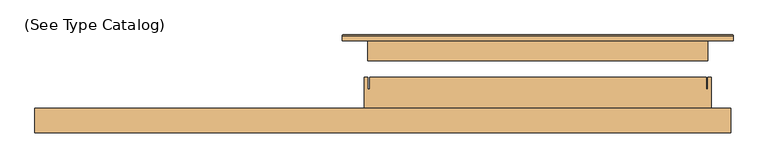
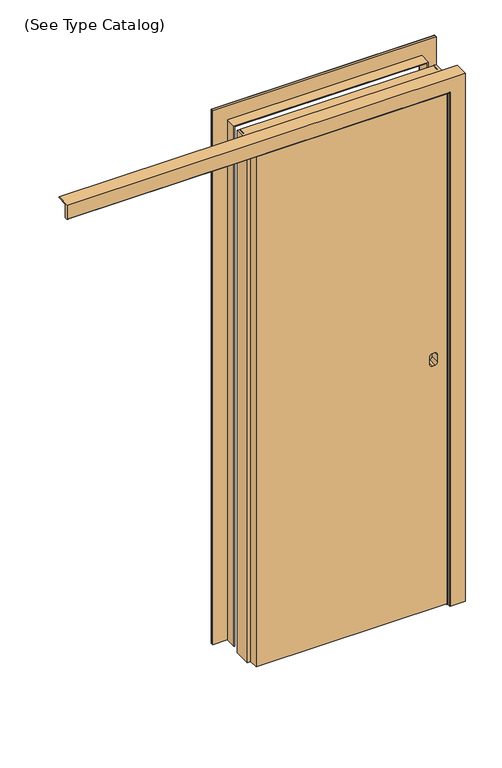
"""IFC4 building model written with IfcOpenShell, lengths in millimetres: door geometry, M_Porta-De_Correr-Pormade-Porta_Lisa : (See Type Catalog)."""

import ifcopenshell
import ifcopenshell.guid

model = None  # the IFC model being written
_history = None  # IfcOwnerHistory: only IFC2X3 demands one
_inside = {}  # id of a spatial element -> (the spatial element, [elements in it])
_under = {}  # id of a project, library or spatial element -> (it, [spatial elements below it])
_declared = {}  # id of a project -> (the project, [libraries it declares])
_typed = {}  # id of a type object -> (the type object, [elements of that type])
_made_of = {}  # id of a material, layer set ... -> (it, [elements and type objects made of it])


def new_model(schema):
    """Start an empty IFC model of exactly this schema.

    Asked for "IFC4X3", IfcOpenShell would pick the latest addendum, in which some entities
    have other attributes; the version numbers below select the first issue.
    IFC2X3 requires an IfcOwnerHistory on every rooted entity: one is made here for all.
    """
    global model, _history
    if schema == "IFC4X3":
        model = ifcopenshell.file(schema_version=(4, 3, 0, 0))
    else:
        model = ifcopenshell.file(schema=schema)
    _inside.clear()
    _under.clear()
    _declared.clear()
    _typed.clear()
    _made_of.clear()
    _history = None
    if model.schema == "IFC2X3":
        org = make("IfcOrganization", Name="unknown")
        user = make(
            "IfcPersonAndOrganization",
            ThePerson=make("IfcPerson", FamilyName="unknown"),
            TheOrganization=org,
        )
        app = make(
            "IfcApplication",
            ApplicationDeveloper=org,
            Version="unknown",
            ApplicationFullName="unknown",
            ApplicationIdentifier="unknown",
        )
        _history = make(
            "IfcOwnerHistory",
            OwningUser=user,
            OwningApplication=app,
            ChangeAction="ADDED",
            CreationDate=0,
        )
    return model


def make(cls, **values):
    """One entity of the class cls with the attributes given. An attribute that is None is left unset."""
    return model.create_entity(
        cls, **{name: value for name, value in values.items() if value is not None}
    )


def rooted(cls, **values):
    """An entity with a GlobalId (a new one), such as an element, a storey or a relation."""
    return make(cls, GlobalId=ifcopenshell.guid.new(), OwnerHistory=_history, **values)


def si_unit(unit_type, name, prefix=None):
    """IfcSIUnit, for example si_unit("LENGTHUNIT", "METRE", prefix="MILLI")."""
    return make("IfcSIUnit", UnitType=unit_type, Prefix=prefix, Name=name)


def assignment(units):
    """IfcUnitAssignment: the units of a project."""
    return None if units is None else make("IfcUnitAssignment", Units=units)


def point(xyz):
    """IfcCartesianPoint."""
    return None if xyz is None else make("IfcCartesianPoint", Coordinates=xyz)


def direction(xyz):
    """IfcDirection."""
    return None if xyz is None else make("IfcDirection", DirectionRatios=xyz)


def frame(location, z_axis=None, x_axis=None):
    """IfcAxis2Placement3D, a coordinate frame: its origin and axes. An axis left out is left unset."""
    return make(
        "IfcAxis2Placement3D",
        Location=point(location),
        Axis=direction(z_axis),
        RefDirection=direction(x_axis),
    )


def frame_2d(location, x_axis=None):
    """IfcAxis2Placement2D, a coordinate frame in the plane: its origin and x axis."""
    return make(
        "IfcAxis2Placement2D", Location=point(location), RefDirection=direction(x_axis)
    )


def origin():
    """The frame at (0, 0, 0) with its axes left unset."""
    return frame((0.0, 0.0, 0.0))


def place(relative_to, where):
    """IfcLocalPlacement: puts the frame where relative to a parent placement (None: the world)."""
    return make(
        "IfcLocalPlacement", PlacementRelTo=relative_to, RelativePlacement=where
    )


def context(
    kind, dimensions, precision=None, world=None, true_north=None, identifier=None
):
    """IfcGeometricRepresentationContext, for example the 3D "Model" context."""
    return make(
        "IfcGeometricRepresentationContext",
        ContextIdentifier=identifier,
        ContextType=kind,
        CoordinateSpaceDimension=dimensions,
        Precision=precision,
        WorldCoordinateSystem=world,
        TrueNorth=true_north,
    )


def project(units=None, contexts=None):
    """IfcProject with its units and contexts."""
    return rooted(
        "IfcProject",
        Name="project",
        RepresentationContexts=contexts,
        UnitsInContext=assignment(units),
    )


def spatial(cls, under=None, at=None, **own):
    """A site, building, storey or space (cls), placed at a placement, below another one or the project."""
    s = rooted(cls, ObjectPlacement=at, **own)
    if under is not None:
        _under.setdefault(under.id(), (under, []))[1].append(s)
    return s


def polyline(points):
    """IfcPolyline through the points."""
    return make("IfcPolyline", Points=[point(p) for p in points])


def circle_curve(where, radius):
    """IfcCircle in the frame where."""
    return make("IfcCircle", Position=where, Radius=radius)


def ellipse_curve(where, semi_axis1, semi_axis2):
    """IfcEllipse in the frame where."""
    return make(
        "IfcEllipse", Position=where, SemiAxis1=semi_axis1, SemiAxis2=semi_axis2
    )


def trimmed(basis, trim1, trim2, sense, master):
    """IfcTrimmedCurve: the piece of a basis curve between two trims."""
    return make(
        "IfcTrimmedCurve",
        BasisCurve=basis,
        Trim1=trim1,
        Trim2=trim2,
        SenseAgreement=sense,
        MasterRepresentation=master,
    )


def segment(curve, same_sense, transition):
    """IfcCompositeCurveSegment."""
    return make(
        "IfcCompositeCurveSegment",
        Transition=transition,
        SameSense=same_sense,
        ParentCurve=curve,
    )


def composite_curve(segments, self_intersect=None):
    """IfcCompositeCurve: segments joined end to end."""
    return make("IfcCompositeCurve", Segments=segments, SelfIntersect=self_intersect)


def outline(outer, holes=None, kind="AREA"):
    """IfcArbitraryClosedProfileDef: a profile drawn as a closed curve; with holes, ...WithVoids."""
    if holes is None:
        return make("IfcArbitraryClosedProfileDef", ProfileType=kind, OuterCurve=outer)
    return make(
        "IfcArbitraryProfileDefWithVoids",
        ProfileType=kind,
        OuterCurve=outer,
        InnerCurves=holes,
    )


def extrude(swept, where, along, depth):
    """IfcExtrudedAreaSolid: the profile swept, set in the frame where, extruded along a direction by depth."""
    return make(
        "IfcExtrudedAreaSolid",
        SweptArea=swept,
        Position=where,
        ExtrudedDirection=direction(along),
        Depth=depth,
    )


def faces_of(points, faces, orient=None, outer=None):
    """IfcFace entities. A face is a list of loops; a loop is a list of indices into points, from 0.

    orient and outer hold one flag for each loop. By default every Orientation is true, the
    first loop of a face is its IfcFaceOuterBound and the others are IfcFaceBound.
    """
    made = []
    for i, loops in enumerate(faces):
        bounds = []
        for j, loop in enumerate(loops):
            is_outer = j == 0 if outer is None else outer[i][j]
            bounds.append(
                make(
                    "IfcFaceOuterBound" if is_outer else "IfcFaceBound",
                    Bound=make("IfcPolyLoop", Polygon=[points[k] for k in loop]),
                    Orientation=True if orient is None else orient[i][j],
                )
            )
        made.append(make("IfcFace", Bounds=bounds))
    return made


def faceted_brep(points, faces, orient=None, outer=None, voids=None):
    """IfcFacetedBrep: a solid bounded by flat faces; with voids (closed shells), ...WithVoids."""
    shared = [point(p) for p in points]
    hull = make("IfcClosedShell", CfsFaces=faces_of(shared, faces, orient, outer))
    if voids is None:
        return make("IfcFacetedBrep", Outer=hull)
    return make(
        "IfcFacetedBrepWithVoids",
        Outer=hull,
        Voids=[
            make(cls, CfsFaces=faces_of(shared, fs, o, b)) for cls, fs, o, b in voids
        ],
    )


def shape(context_of_items, identifier, shape_type, items):
    """IfcShapeRepresentation: the items that make up one representation, for example the "Body"."""
    return make(
        "IfcShapeRepresentation",
        ContextOfItems=context_of_items,
        RepresentationIdentifier=identifier,
        RepresentationType=shape_type,
        Items=items,
    )


def source(mapping_origin, context_of_items, identifier, shape_type, items):
    """IfcRepresentationMap: a shape defined once, which mapped items show again and again."""
    return make(
        "IfcRepresentationMap",
        MappingOrigin=mapping_origin,
        MappedRepresentation=shape(context_of_items, identifier, shape_type, items),
    )


def transform(
    local_origin,
    x_axis=None,
    y_axis=None,
    z_axis=None,
    scale=None,
    scale2=None,
    scale3=None,
    uniform=True,
):
    """IfcCartesianTransformationOperator3D, or its non-uniform kind. x_axis, y_axis, z_axis: its Axis1, 2, 3."""
    if uniform:
        return make(
            "IfcCartesianTransformationOperator3D",
            Axis1=direction(x_axis),
            Axis2=direction(y_axis),
            LocalOrigin=point(local_origin),
            Scale=scale,
            Axis3=direction(z_axis),
        )
    return make(
        "IfcCartesianTransformationOperator3DnonUniform",
        Axis1=direction(x_axis),
        Axis2=direction(y_axis),
        LocalOrigin=point(local_origin),
        Scale=scale,
        Axis3=direction(z_axis),
        Scale2=scale2,
        Scale3=scale3,
    )


def mapped(mapping_source, mapping_target):
    """IfcMappedItem: shows the shape of a source again, moved by a transform."""
    return make(
        "IfcMappedItem", MappingSource=mapping_source, MappingTarget=mapping_target
    )


def made_of(thing, what):
    """Note that an element or type object is made of a material, layer set ...; save() writes the relation."""
    if what is not None:
        _made_of.setdefault(what.id(), (what, []))[1].append(thing)
    return thing


def element(
    cls,
    number,
    at=None,
    inside=None,
    cuts=None,
    type_object=None,
    material=None,
    context=None,
    identifier="Body",
    shape_type=None,
    held_by="IfcProductDefinitionShape",
    body=None,
    shapes=None,
    **own,
):
    """One element of the class cls, such as IfcWall. Its Tag is "e" and its number.

    at: its placement. inside: the storey or other place that contains it. cuts: it is an
    opening in that element (IfcRelVoidsElement). A single representation is given by context,
    identifier, shape_type and body (its items); several are given by shapes. held_by: the class
    of the entity that holds the representations. save() writes the other relations.
    """
    e = rooted(cls, Tag="e%d" % number, ObjectPlacement=at, **own)
    if body is not None:
        shapes = [shape(context, identifier, shape_type, body)]
    if shapes is not None:
        e.Representation = make(held_by, Representations=shapes)
    if inside is not None:
        _inside.setdefault(inside.id(), (inside, []))[1].append(e)
    if cuts is not None:
        rooted(
            "IfcRelVoidsElement", RelatingBuildingElement=cuts, RelatedOpeningElement=e
        )
    if type_object is not None:
        _typed.setdefault(type_object.id(), (type_object, []))[1].append(e)
    return made_of(e, material)


def aggregate(whole, parts):
    """IfcRelAggregates: a whole, such as a stair, and the parts it consists of."""
    return rooted("IfcRelAggregates", RelatingObject=whole, RelatedObjects=parts)


def save(model, path):
    """Write the relations noted so far, then the file.

    IfcRelAggregates (storeys below a building ...), IfcRelContainedInSpatialStructure (elements
    in a storey), IfcRelDefinesByType, IfcRelAssociatesMaterial and IfcRelDeclares: one each for
    every whole, place, type object, material and project.
    """
    for whole, parts in _under.values():
        aggregate(whole, parts)
    for where, things in _inside.values():
        rooted(
            "IfcRelContainedInSpatialStructure",
            RelatedElements=things,
            RelatingStructure=where,
        )
    for kind, things in _typed.values():
        rooted("IfcRelDefinesByType", RelatedObjects=things, RelatingType=kind)
    for what, things in _made_of.values():
        rooted("IfcRelAssociatesMaterial", RelatedObjects=things, RelatingMaterial=what)
    for by, libraries in _declared.values():
        rooted("IfcRelDeclares", RelatingContext=by, RelatedDefinitions=libraries)
    model.write(path)


def plane_surface(at):
    """IfcPlane: the flat surface through the origin of the frame at, square to its z axis."""
    return make("IfcPlane", Position=at)


def cylinder_surface(at, radius):
    """IfcCylindricalSurface: all points at the distance radius from the z axis of the frame at."""
    return make("IfcCylindricalSurface", Position=at, Radius=radius)


def advanced_brep(points, edges, surfaces, faces):
    """IfcAdvancedBrep: a solid bounded by faces that lie on surfaces and meet in shared edges.

    An edge is (start, end): straight between two places in points (the first is 0);
    or (start, end, curve); or (start, end, curve, False) where it runs against its curve.
    A face is (place in surfaces, loops), or (place, loops, False) where it looks against
    its surface's normal. A loop lists edges by number (the first is 1), with a minus sign
    where the edge is run from its end to its start. The first loop is the outer one.
    """
    corners = [point(p) for p in points]
    vertices = [make("IfcVertexPoint", VertexGeometry=c) for c in corners]
    made = []
    for start, end, *more in edges:
        made.append(
            make(
                "IfcEdgeCurve",
                EdgeStart=vertices[start],
                EdgeEnd=vertices[end],
                EdgeGeometry=more[0] if more else make("IfcPolyline", Points=[corners[start], corners[end]]),
                SameSense=more[1] if len(more) > 1 else True,
            )
        )
    hull = []
    for where, loops, *sense in faces:
        bounds = []
        for j, loop in enumerate(loops):
            ring = [make("IfcOrientedEdge", EdgeElement=made[abs(k) - 1], Orientation=k > 0) for k in loop]
            bounds.append(
                make(
                    "IfcFaceOuterBound" if j == 0 else "IfcFaceBound",
                    Bound=make("IfcEdgeLoop", EdgeList=ring),
                    Orientation=True,
                )
            )
        hull.append(make("IfcAdvancedFace", Bounds=bounds, FaceSurface=surfaces[where], SameSense=sense[0] if sense else True))
    return make("IfcAdvancedBrep", Outer=make("IfcClosedShell", CfsFaces=hull))


def see_type_catalog_3550771c(model_context):
    return source(origin(), model_context, "Body", "SolidModel", [
        extrude(outline(polyline([(2105.0, -376.5), (5.0, -376.5), (5.0, 363.5), (2105.0, 363.5), (2105.0, -376.5)]), holes=[composite_curve([segment(polyline([(1039.9860517, 327.1458795), (1009.9860517, 327.1458795)]), True, "CONTINUOUS"), segment(trimmed(circle_curve(frame_2d((1009.9860517, 317.1458795)), 10.0), [point((1009.9860517, 327.1458795))], [point((999.9860517, 317.1458795))], True, "CARTESIAN"), True, "CONTINUOUS"), segment(polyline([(999.9860517, 317.1458795), (999.9860517, 307.1458795)]), True, "CONTINUOUS"), segment(trimmed(circle_curve(frame_2d((1009.9860517, 307.1458795)), 10.0), [point((999.9860517, 307.1458795))], [point((1009.9860517, 297.1458795))], True, "CARTESIAN"), True, "CONTINUOUS"), segment(polyline([(1009.9860517, 297.1458795), (1039.9860517, 297.1458795)]), True, "CONTINUOUS"), segment(trimmed(circle_curve(frame_2d((1039.9860517, 307.1458795)), 10.0), [point((1039.9860517, 297.1458795))], [point((1049.9860517, 307.1458795))], True, "CARTESIAN"), True, "CONTINUOUS"), segment(polyline([(1049.9860517, 307.1458795), (1049.9860517, 317.1458795)]), True, "CONTINUOUS"), segment(trimmed(circle_curve(frame_2d((1039.9860517, 317.1458795)), 10.0), [point((1049.9860517, 317.1458795))], [point((1039.9860517, 327.1458795))], True, "CARTESIAN"), True, "CONTINUOUS")], self_intersect=False)]), frame((0.0, -117.0, 0.0), z_axis=(0.0, 1.0, 0.0), x_axis=(0.0, 0.0, 1.0)), (0.0, 0.0, 1.0), 35.0),
        advanced_brep(
        [(368.5, -127.5, 0.0), (368.5, -117.0, 0.0), (425.0, -117.0, 0.0), (425.0, -75.0, 0.0), (428.5, -75.0, 0.0), (428.5, -129.5, 0.0), (370.5, -129.5, 0.0), (370.5, -129.5, 2108.5), (368.5, -127.5, 2106.5), (428.5, -129.5, 2166.5), (-1116.5, -129.5, 2166.5), (-1116.5, -129.5, 2108.5), (428.5, -75.0, 2166.5), (425.0, -75.0, 2163.0), (-1116.5, -75.0, 2163.0), (-1116.5, -75.0, 2166.5), (425.0, -117.0, 2163.0), (368.5, -117.0, 2106.5), (-1116.5, -117.0, 2106.5), (-1116.5, -117.0, 2163.0), (-1116.5, -127.5, 2106.5)],
        [
            (0, 1),
            (1, 2),
            (2, 3),
            (3, 4),
            (4, 5),
            (5, 6),
            (6, 0, circle_curve(frame((370.5, -127.5, 0.0), z_axis=(0.0, 0.0, -1.0), x_axis=(-1.0, 0.0, 0.0)), 2.0)),
            (6, 7),
            (7, 8, ellipse_curve(frame((370.5, -127.5, 2108.5), z_axis=(0.7071067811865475, 0.0, -0.7071067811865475), x_axis=(-0.7071067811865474, 0.0, -0.7071067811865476)), 2.8284271, 2.0)),
            (8, 0),
            (5, 9),
            (9, 10),
            (10, 11),
            (11, 7),
            (4, 12),
            (12, 9),
            (3, 13),
            (13, 14),
            (14, 15),
            (15, 12),
            (2, 16),
            (16, 13),
            (1, 17),
            (17, 18),
            (18, 19),
            (19, 16),
            (8, 17),
            (20, 11, circle_curve(frame((-1116.5, -127.5, 2108.5), z_axis=(-1.0, 0.0, 0.0), x_axis=(0.0, 0.0, -1.0)), 2.0)),
            (10, 15),
            (14, 19),
            (18, 20),
            (20, 8),
        ],
        [
            plane_surface(frame((428.5, -75.0, 0.0), z_axis=(0.0, 0.0, -1.0), x_axis=(0.0, 1.0, 0.0))),
            cylinder_surface(frame((370.5, -127.5, 0.0), z_axis=(0.0, 0.0, -1.0), x_axis=(-1.0, 0.0, 0.0)), 2.0),
            plane_surface(frame((370.5, -129.5, 0.0), z_axis=(0.0, -1.0, 0.0), x_axis=(0.0, 0.0, 1.0))),
            plane_surface(frame((428.5, -129.5, 0.0), z_axis=(1.0, 0.0, 0.0), x_axis=(0.0, 0.0, 1.0))),
            plane_surface(frame((428.5, -75.0, 0.0), z_axis=(0.0, 1.0, 0.0), x_axis=(0.0, 0.0, 1.0))),
            plane_surface(frame((425.0, -75.0, 0.0), z_axis=(-1.0, 0.0, 0.0), x_axis=(0.0, 0.0, 1.0))),
            plane_surface(frame((425.0, -117.0, 0.0), z_axis=(0.0, 1.0, 0.0), x_axis=(0.0, 0.0, 1.0))),
            plane_surface(frame((368.5, -117.0, 0.0), z_axis=(-1.0, 0.0, 0.0), x_axis=(0.0, 0.0, 1.0))),
            plane_surface(frame((-1116.5, -75.0, 2166.5), z_axis=(-1.0, 0.0, 0.0), x_axis=(0.0, 1.0, 0.0))),
            cylinder_surface(frame((428.5, -127.5, 2108.5), z_axis=(1.0, 0.0, 0.0), x_axis=(0.0, 0.0, -1.0)), 2.0),
            plane_surface(frame((428.5, -129.5, 2166.5), z_axis=(0.0, 0.0, 1.0), x_axis=(-1.0, 0.0, 0.0))),
            plane_surface(frame((425.0, -75.0, 2163.0), z_axis=(0.0, 0.0, -1.0), x_axis=(-1.0, 0.0, 0.0))),
            plane_surface(frame((368.5, -117.0, 2106.5), z_axis=(0.0, 0.0, -1.0), x_axis=(-1.0, 0.0, 0.0))),
        ],
        [
            (0, [[1, 2, 3, 4, 5, 6, 7]]),
            (1, [[8, 9, 10, -7]]),
            (2, [[11, 12, 13, 14, -8, -6]]),
            (3, [[15, 16, -11, -5]]),
            (4, [[17, 18, 19, 20, -15, -4]]),
            (5, [[21, 22, -17, -3]]),
            (6, [[23, 24, 25, 26, -21, -2]]),
            (7, [[-10, 27, -23, -1]]),
            (8, [[28, -13, 29, -19, 30, -25, 31]]),
            (9, [[-14, -28, 32, -9]]),
            (10, [[-20, -29, -12, -16]]),
            (11, [[-26, -30, -18, -22]]),
            (12, [[-32, -31, -24, -27]]),
        ],
    ),
        advanced_brep(
        [(433.75, 85.5, 0.0), (433.75, 75.0, 0.0), (377.25, 75.0, 0.0), (377.25, 30.0, 0.0), (373.75, 30.0, 0.0), (373.75, 85.5, 0.0), (375.75, 87.5, 0.0), (431.75, 87.5, 0.0), (431.75, 87.5, 2188.0), (433.75, 85.5, 2190.0), (375.75, 87.5, 2132.0), (-375.75, 87.5, 2132.0), (-375.75, 87.5, 0.0), (-431.75, 87.5, 0.0), (-431.75, 87.5, 2188.0), (373.75, 85.5, 2130.0), (373.75, 30.0, 2130.0), (377.25, 30.0, 2133.5), (-377.25, 30.0, 2133.5), (-377.25, 30.0, 0.0), (-373.75, 30.0, 0.0), (-373.75, 30.0, 2130.0), (377.25, 75.0, 2133.5), (433.75, 75.0, 2190.0), (-433.75, 75.0, 2190.0), (-433.75, 75.0, 0.0), (-377.25, 75.0, 0.0), (-377.25, 75.0, 2133.5), (-433.75, 85.5, 2190.0), (-373.75, 85.5, 2130.0), (-433.75, 85.5, 0.0), (-373.75, 85.5, 0.0)],
        [
            (0, 1),
            (1, 2),
            (2, 3),
            (3, 4),
            (4, 5),
            (5, 6, circle_curve(frame((375.75, 85.5, 0.0), z_axis=(0.0, 0.0, -1.0), x_axis=(0.0, 1.0, 0.0)), 2.0)),
            (6, 7),
            (7, 0, circle_curve(frame((431.75, 85.5, 0.0), z_axis=(0.0, 0.0, -1.0), x_axis=(0.0, 1.0, 0.0)), 2.0)),
            (7, 8),
            (8, 9, ellipse_curve(frame((431.75, 85.5, 2188.0), z_axis=(0.7071067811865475, 0.0, -0.7071067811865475), x_axis=(-0.7071067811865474, 0.0, -0.7071067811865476)), 2.8284271, 2.0)),
            (9, 0),
            (6, 10),
            (10, 11),
            (11, 12),
            (12, 13),
            (13, 14),
            (14, 8),
            (5, 15),
            (15, 10, ellipse_curve(frame((375.75, 85.5, 2132.0), z_axis=(0.7071067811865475, 0.0, -0.7071067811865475), x_axis=(-0.7071067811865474, 0.0, -0.7071067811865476)), 2.8284271, 2.0)),
            (4, 16),
            (16, 15),
            (3, 17),
            (17, 18),
            (18, 19),
            (19, 20),
            (20, 21),
            (21, 16),
            (2, 22),
            (22, 17),
            (1, 23),
            (23, 24),
            (24, 25),
            (25, 26),
            (26, 27),
            (27, 22),
            (9, 23),
            (14, 28, ellipse_curve(frame((-431.75, 85.5, 2188.0), z_axis=(0.7071067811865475, 0.0, 0.7071067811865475), x_axis=(0.7071067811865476, 0.0, -0.7071067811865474)), 2.8284271, 2.0)),
            (28, 9),
            (15, 29),
            (29, 11, ellipse_curve(frame((-375.75, 85.5, 2132.0), z_axis=(0.7071067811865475, 0.0, 0.7071067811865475), x_axis=(0.7071067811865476, 0.0, -0.7071067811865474)), 2.8284271, 2.0)),
            (21, 29),
            (27, 18),
            (28, 24),
            (30, 13, circle_curve(frame((-431.75, 85.5, 0.0), z_axis=(0.0, 0.0, -1.0), x_axis=(0.0, 1.0, 0.0)), 2.0)),
            (12, 31, circle_curve(frame((-375.75, 85.5, 0.0), z_axis=(0.0, 0.0, -1.0), x_axis=(0.0, 1.0, 0.0)), 2.0)),
            (31, 20),
            (19, 26),
            (25, 30),
            (30, 28),
            (29, 31),
        ],
        [
            plane_surface(frame((373.75, 75.0, 0.0), z_axis=(0.0, 0.0, -1.0), x_axis=(0.0, 1.0, 0.0))),
            cylinder_surface(frame((431.75, 85.5, 0.0), z_axis=(0.0, 0.0, -1.0), x_axis=(0.0, 1.0, 0.0)), 2.0),
            plane_surface(frame((431.75, 87.5, 0.0), z_axis=(0.0, 1.0, 0.0), x_axis=(0.0, 0.0, 1.0))),
            cylinder_surface(frame((375.75, 85.5, 0.0), z_axis=(0.0, 0.0, -1.0), x_axis=(0.0, 1.0, 0.0)), 2.0),
            plane_surface(frame((373.75, 85.5, 0.0), z_axis=(-1.0, 0.0, 0.0), x_axis=(0.0, 0.0, 1.0))),
            plane_surface(frame((373.75, 30.0, 0.0), z_axis=(0.0, -1.0, 0.0), x_axis=(0.0, 0.0, 1.0))),
            plane_surface(frame((377.25, 30.0, 0.0), z_axis=(1.0, 0.0, 0.0), x_axis=(0.0, 0.0, 1.0))),
            plane_surface(frame((377.25, 75.0, 0.0), z_axis=(0.0, -1.0, 0.0), x_axis=(0.0, 0.0, 1.0))),
            plane_surface(frame((433.75, 75.0, 0.0), z_axis=(1.0, 0.0, 0.0), x_axis=(0.0, 0.0, 1.0))),
            cylinder_surface(frame((373.75, 85.5, 2188.0), z_axis=(1.0, 0.0, 0.0), x_axis=(0.0, 1.0, 0.0)), 2.0),
            cylinder_surface(frame((373.75, 85.5, 2132.0), z_axis=(1.0, 0.0, 0.0), x_axis=(0.0, 1.0, 0.0)), 2.0),
            plane_surface(frame((373.75, 85.5, 2130.0), z_axis=(0.0, 0.0, -1.0), x_axis=(-1.0, 0.0, 0.0))),
            plane_surface(frame((377.25, 30.0, 2133.5), z_axis=(0.0, 0.0, 1.0), x_axis=(-1.0, 0.0, 0.0))),
            plane_surface(frame((433.75, 75.0, 2190.0), z_axis=(0.0, 0.0, 1.0), x_axis=(-1.0, 0.0, 0.0))),
            plane_surface(frame((-373.75, 75.0, 0.0), z_axis=(0.0, 0.0, -1.0), x_axis=(0.0, 1.0, 0.0))),
            cylinder_surface(frame((-431.75, 85.5, 2130.0), z_axis=(0.0, 0.0, 1.0), x_axis=(0.0, 1.0, 0.0)), 2.0),
            cylinder_surface(frame((-375.75, 85.5, 2130.0), z_axis=(0.0, 0.0, 1.0), x_axis=(0.0, 1.0, 0.0)), 2.0),
            plane_surface(frame((-373.75, 85.5, 2130.0), z_axis=(1.0, 0.0, 0.0), x_axis=(0.0, 0.0, -1.0))),
            plane_surface(frame((-377.25, 30.0, 2133.5), z_axis=(-1.0, 0.0, 0.0), x_axis=(0.0, 0.0, -1.0))),
            plane_surface(frame((-433.75, 75.0, 2190.0), z_axis=(-1.0, 0.0, 0.0), x_axis=(0.0, 0.0, -1.0))),
        ],
        [
            (0, [[1, 2, 3, 4, 5, 6, 7, 8]]),
            (1, [[9, 10, 11, -8]]),
            (2, [[12, 13, 14, 15, 16, 17, -9, -7]]),
            (3, [[18, 19, -12, -6]]),
            (4, [[20, 21, -18, -5]]),
            (5, [[22, 23, 24, 25, 26, 27, -20, -4]]),
            (6, [[28, 29, -22, -3]]),
            (7, [[30, 31, 32, 33, 34, 35, -28, -2]]),
            (8, [[-11, 36, -30, -1]]),
            (9, [[-17, 37, 38, -10]]),
            (10, [[39, 40, -13, -19]]),
            (11, [[-27, 41, -39, -21]]),
            (12, [[-35, 42, -23, -29]]),
            (13, [[-38, 43, -31, -36]]),
            (14, [[44, -15, 45, 46, -25, 47, -33, 48]]),
            (15, [[-16, -44, 49, -37]]),
            (16, [[50, -45, -14, -40]]),
            (17, [[-26, -46, -50, -41]]),
            (18, [[-34, -47, -24, -42]]),
            (19, [[-49, -48, -32, -43]]),
        ],
    ),
        faceted_brep([(-385.5, -75.0, 2142.0), (363.5, -75.0, 2142.0), (363.5, -117.0, 2142.0), (385.5, -117.0, 2142.0), (385.5, -7.0, 2142.0), (377.5, -7.0, 2142.0), (377.5, -33.0, 2142.0), (373.75, -33.0, 2142.0), (373.75, -7.0, 2142.0), (-373.5, -7.0, 2142.0), (-373.5, -33.0, 2142.0), (-377.5, -33.0, 2142.0), (-377.5, -7.0, 2142.0), (-385.5, -7.0, 2142.0), (-353.5, -7.0, 0.0), (-353.5, -75.0, 0.0), (-385.5, -75.0, 0.0), (-385.5, -7.0, 0.0), (-377.5, -7.0, 0.0), (-377.5, -33.0, 0.0), (-373.5, -33.0, 0.0), (-373.5, -7.0, 0.0), (353.5, -7.0, 0.0), (373.75, -7.0, 0.0), (373.75, -33.0, 0.0), (377.5, -33.0, 0.0), (377.5, -7.0, 0.0), (385.5, -7.0, 0.0), (385.5, -117.0, 0.0), (363.5, -117.0, 0.0), (363.5, -75.0, 0.0), (353.5, -75.0, 0.0), (-353.5, -7.0, 2110.0), (-353.5, -75.0, 2110.0), (-353.5, -7.0, 2134.0), (-353.5, -32.0, 2134.0), (-353.5, -32.0, 2130.0), (-353.5, -7.0, 2130.0), (353.5, -75.0, 2110.0), (-373.5, -33.0, 2110.0), (353.5, -7.0, 2110.0), (353.5, -7.0, 2130.0), (353.5, -7.0, 2134.0), (373.75, -33.0, 2110.0), (353.5, -32.0, 2130.0), (353.5, -32.0, 2134.0)], [[[0, 1, 2, 3, 4, 5, 6, 7, 8, 9, 10, 11, 12, 13]], [[14, 15, 16, 17, 18, 19, 20, 21]], [[22, 23, 24, 25, 26, 27, 28, 29, 30, 31]], [[14, 32, 33, 15]], [[34, 35, 36, 37]], [[15, 33, 38, 31, 30, 1, 0, 16]], [[13, 17, 16, 0]], [[12, 18, 17, 13]], [[11, 19, 18, 12]], [[10, 39, 20, 19, 11]], [[21, 20, 39, 10, 9]], [[8, 23, 22, 40, 32, 14, 21, 9], [34, 37, 41, 42]], [[7, 43, 24, 23, 8]], [[6, 25, 24, 43, 7]], [[5, 26, 25, 6]], [[4, 27, 26, 5]], [[4, 3, 28, 27]], [[31, 38, 40, 22]], [[41, 44, 45, 42]], [[2, 29, 28, 3]], [[30, 29, 2, 1]], [[37, 36, 44, 41]], [[36, 35, 45, 44]], [[42, 45, 35, 34]], [[40, 38, 33, 32]]]),
    ])


if __name__ == "__main__":
    model = new_model("IFC4")
    model_context = context("Model", 3, world=origin())
    ifc_project = project(units=[si_unit("LENGTHUNIT", "METRE", prefix="MILLI")], contexts=[model_context])
    site = spatial("IfcSite", under=ifc_project)
    building = spatial("IfcBuilding", under=site)
    placement = place(None, origin())
    see_type_catalog_shape = see_type_catalog_3550771c(model_context)
    element("IfcDoor", 1, ObjectType="M_Porta-De_Correr-Pormade-Porta_Lisa : (See Type Catalog)", at=placement, inside=building, context=model_context, shape_type="MappedRepresentation", body=[
        mapped(see_type_catalog_shape, transform((0.0, 0.0, 0.0), x_axis=(1.0, 0.0, 0.0), y_axis=(0.0, 1.0, 0.0), z_axis=(0.0, 0.0, 1.0))),
    ])
    save(model, "model.ifc")
